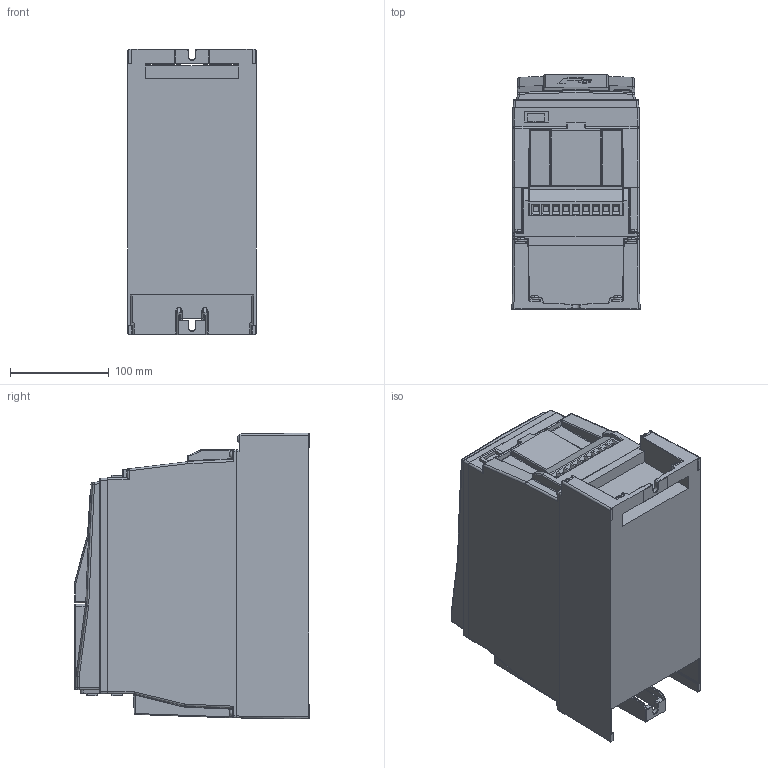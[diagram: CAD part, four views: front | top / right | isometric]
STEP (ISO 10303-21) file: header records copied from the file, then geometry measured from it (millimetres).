
FILE_DESCRIPTION (( 'STEP AP214' ), '1' );
FILE_NAME ('F6-2TR0-P050.STEP', '2020-11-30T11:24:11', ( '' ), ( '' ), 'SwSTEP 2.0', 'SolidWorks 2019', '' );
FILE_SCHEMA (( 'AUTOMOTIVE_DESIGN' ));
Length unit declared in the file: millimetre
Products named in the file (1): F6-2TR0-P050
Bounding box: 130 x 238.4 x 290 mm (x, y, z)
Volume: 7038317.8 mm3; surface area: 298777 mm2
Topology: 2 solids, 2 shells, 1289 faces, 3199 edges, 1889 vertices
Faces by surface type: plane 541, cylinder 364, bspline 245, sphere 60, torus 55, cone 24
Entity records: 45669 total; most frequent: CARTESIAN_POINT 17574, ORIENTED_EDGE 6254, DIRECTION 5229, EDGE_CURVE 3127, VERTEX_POINT 1889, AXIS2_PLACEMENT_3D 1773, LINE 1683, VECTOR 1683
